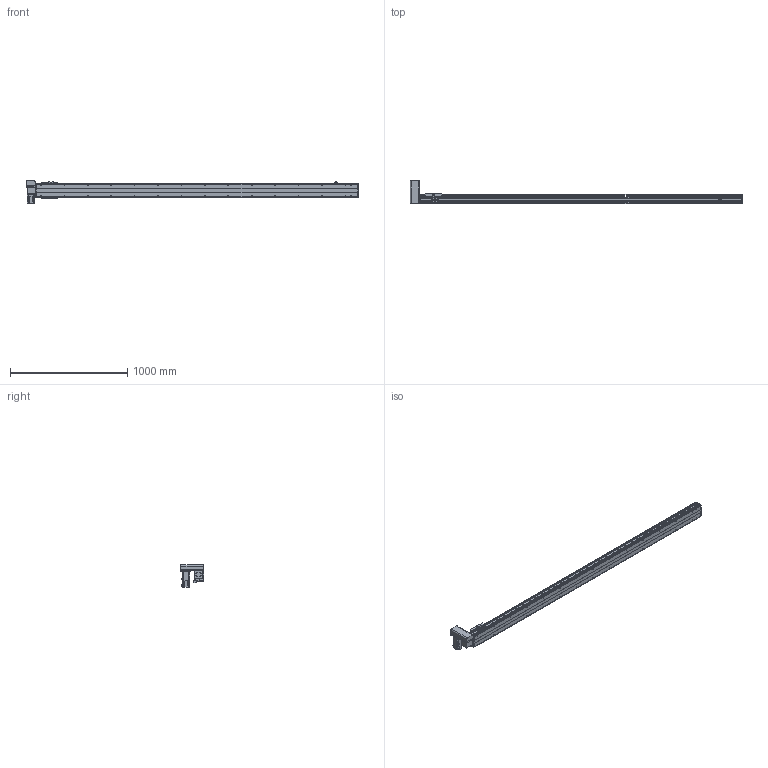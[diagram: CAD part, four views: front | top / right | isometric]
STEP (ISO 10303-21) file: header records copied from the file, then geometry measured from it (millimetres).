
FILE_DESCRIPTION(/* description */ ('STEP AP214'),/* implementation_level */ '2;1');
FILE_NAME(/* name */ 'PBS120-P40-S2450-RU-T40-C1-N(0)',/* time_stamp */ '2022-06-06T02:51:30+02:00',/* author */ ('License CC BY-ND 4.0'),/* organization */ ('CADENAS'),/* preprocessor_version */ 'ST-DEVELOPER v18.102',/* originating_system */ 'PARTsolutions',/* authorisation */ ' ');
FILE_SCHEMA (('AUTOMOTIVE_DESIGN {1 0 10303 214 3 1 1}'));
Length unit declared in the file: millimetre
Products named in the file (7): PBS120-P40-S2450-RU-T40-C1-N(0); PBS120_sensor; PBS120_plant; PBS120_sliser; T40-p1; PBS120T-RU_motors; PBS120-S2450()_body
Assembly tree (8 placements, depth 2):
  PBS120-P40-S2450-RU-T40-C1-N(0)
    PBS120_sensor  x3
    PBS120_plant
    PBS120_sliser
    T40-p1
    PBS120T-RU_motors
    PBS120-S2450()_body
Bounding box: 2836 x 198 x 189.7 mm (x, y, z)
Volume: 10680764.6 mm3; surface area: 2205240.2 mm2
Topology: 8 solids, 8 shells, 870 faces, 2226 edges, 1429 vertices
Faces by surface type: plane 563, cylinder 243, cone 62, torus 2
Full cylindrical faces by diameter (mm): 2.459 x6, 3.242 x4, 4 x2, 4.134 x4, 4.5 x10, 4.917 x34, 5.5 x11, 6 x2, 6.6 x1, 7 x2, 8.5 x4, 9 x4, 12 x1, 14 x1, 30 x2, 40 x1, 50 x2
Entity records: 22434 total; most frequent: DIRECTION 3908, CARTESIAN_POINT 3803, ORIENTED_EDGE 3586, EDGE_CURVE 1793, AXIS2_PLACEMENT_3D 1340, VERTEX_POINT 1235, LINE 1228, VECTOR 1228
